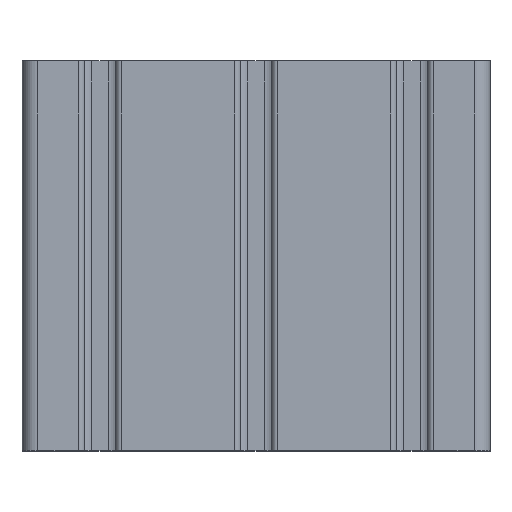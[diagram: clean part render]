
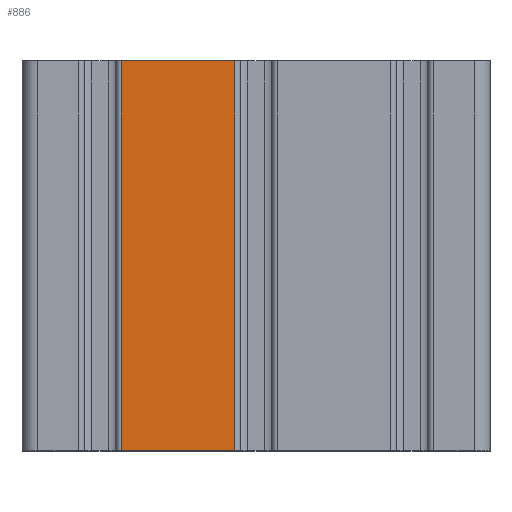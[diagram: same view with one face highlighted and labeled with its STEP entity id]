
A CAD part, top view. The second image highlights one B-rep face of the part: STEP entity #886.
In plain terms, the highlighted planar face has unit normal (0, 0, 1).
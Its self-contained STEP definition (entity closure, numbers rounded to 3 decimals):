
#66 = CARTESIAN_POINT ( 'NONE',  ( -5.5, 50., 20. ) ) ;
#134 = LINE ( 'NONE', #5214, #444 ) ;
#356 = DIRECTION ( 'NONE',  ( 0., 0., -1. ) ) ;
#416 = EDGE_LOOP ( 'NONE', ( #462, #3437, #860, #4157 ) ) ;
#444 = VECTOR ( 'NONE', #3787, 1000. ) ;
#462 = ORIENTED_EDGE ( 'NONE', *, *, #1951, .T. ) ;
#562 = VECTOR ( 'NONE', #4041, 1000. ) ;
#860 = ORIENTED_EDGE ( 'NONE', *, *, #4304, .F. ) ;
#886 = ADVANCED_FACE ( 'NONE', ( #2656 ), #5397, .F. ) ;
#1061 = VERTEX_POINT ( 'NONE', #3676 ) ;
#1128 = LINE ( 'NONE', #2510, #2258 ) ;
#1609 = DIRECTION ( 'NONE',  ( 0., -1., 0. ) ) ;
#1741 = VERTEX_POINT ( 'NONE', #66 ) ;
#1891 = DIRECTION ( 'NONE',  ( 1., 0., 0. ) ) ;
#1951 = EDGE_CURVE ( 'NONE', #4427, #4261, #134, .T. ) ;
#2098 = CARTESIAN_POINT ( 'NONE',  ( -34.5, -50., 20. ) ) ;
#2221 = CARTESIAN_POINT ( 'NONE',  ( -34.5, 50., 20. ) ) ;
#2258 = VECTOR ( 'NONE', #1609, 1000. ) ;
#2436 = EDGE_CURVE ( 'NONE', #1741, #4261, #1128, .T. ) ;
#2473 = VECTOR ( 'NONE', #1891, 1000. ) ;
#2510 = CARTESIAN_POINT ( 'NONE',  ( -5.5, 50., 20. ) ) ;
#2656 = FACE_OUTER_BOUND ( 'NONE', #416, .T. ) ;
#3051 = DIRECTION ( 'NONE',  ( -1., 0., 0. ) ) ;
#3437 = ORIENTED_EDGE ( 'NONE', *, *, #2436, .F. ) ;
#3676 = CARTESIAN_POINT ( 'NONE',  ( -34.5, 50., 20. ) ) ;
#3787 = DIRECTION ( 'NONE',  ( 1., 0., 0. ) ) ;
#3809 = CARTESIAN_POINT ( 'NONE',  ( -34.5, 50., 20. ) ) ;
#3843 = CARTESIAN_POINT ( 'NONE',  ( -5.5, -50., 20. ) ) ;
#4041 = DIRECTION ( 'NONE',  ( 0., -1., 0. ) ) ;
#4101 = EDGE_CURVE ( 'NONE', #1061, #4427, #5797, .T. ) ;
#4157 = ORIENTED_EDGE ( 'NONE', *, *, #4101, .T. ) ;
#4261 = VERTEX_POINT ( 'NONE', #3843 ) ;
#4286 = LINE ( 'NONE', #3809, #2473 ) ;
#4304 = EDGE_CURVE ( 'NONE', #1061, #1741, #4286, .T. ) ;
#4414 = AXIS2_PLACEMENT_3D ( 'NONE', #5290, #356, #3051 ) ;
#4427 = VERTEX_POINT ( 'NONE', #2098 ) ;
#5214 = CARTESIAN_POINT ( 'NONE',  ( -34.5, -50., 20. ) ) ;
#5290 = CARTESIAN_POINT ( 'NONE',  ( -34.5, 50., 20. ) ) ;
#5397 = PLANE ( 'NONE',  #4414 ) ;
#5797 = LINE ( 'NONE', #2221, #562 ) ;
